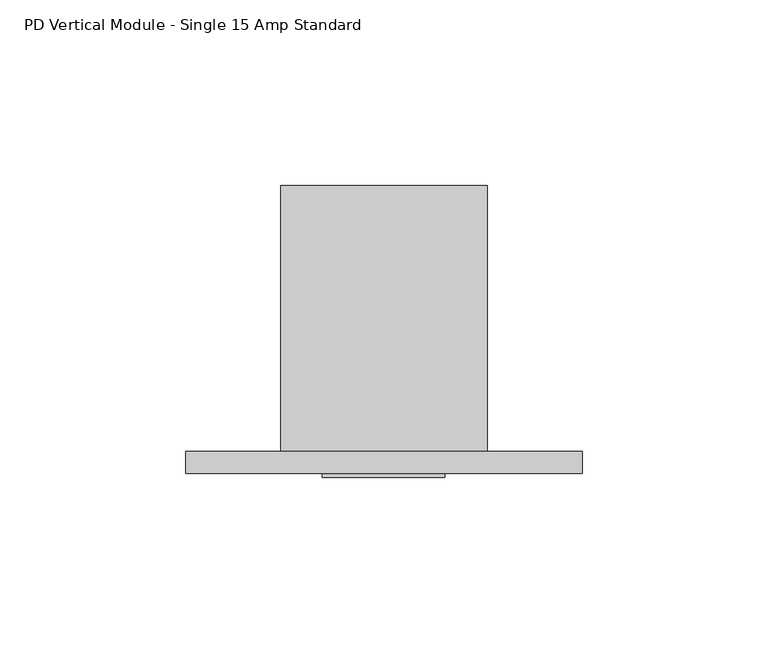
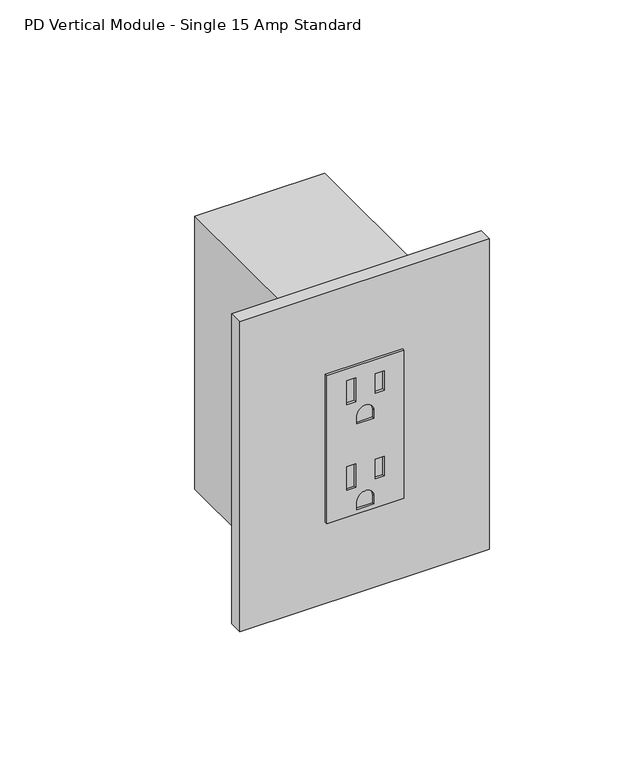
"""IFC4 building model written with IfcOpenShell, lengths in millimetres: proxy geometry, Electrical-Teknion-EPDMSFH_Vertical_Power_Data_Single-R2021 : PD Vertical Module - Single 15 Amp Standard."""

from ifc_helpers import new_model, si_unit, point, frame, frame_2d, origin, place, context, project, spatial, polyline, circle_curve, trimmed, segment, composite_curve, outline, extrude, source, transform, mapped, element, save


def pd_vertical_module_single_15_amp_standard_42925ea9(model_context):
    return source(origin(), model_context, "Body", "SweptSolid", [
        extrude(outline(polyline([(414.4772, 44.0944), (414.4772, 11.0998), (347.5228, 11.0998), (347.5228, 44.0944), (414.4772, 44.0944)]), holes=[polyline([(409.0924, 23.4442), (398.272, 23.4442), (398.272, 19.6088), (409.0924, 19.6088), (409.0924, 23.4442)]), polyline([(408.1145, 35.6108), (399.2499, 35.6108), (399.2499, 31.7754), (408.1145, 31.7754), (408.1145, 35.6108)]), composite_curve([segment(polyline([(388.0866, 31.2293), (388.0866, 23.9649), (391.7188, 23.9649)]), True, "CONTINUOUS"), segment(trimmed(circle_curve(frame_2d((391.7188, 27.5971)), 3.6322), [point((391.7188, 23.9649))], [point((391.7188, 31.2293))], True, "CARTESIAN"), True, "CONTINUOUS"), segment(polyline([(391.7188, 31.2293), (388.0866, 31.2293)]), True, "CONTINUOUS")], self_intersect=False), polyline([(370.3574, 23.4442), (359.537, 23.4442), (359.537, 19.6088), (370.3574, 19.6088), (370.3574, 23.4442)]), polyline([(369.3795, 35.6108), (360.5149, 35.6108), (360.5149, 31.7754), (369.3795, 31.7754), (369.3795, 35.6108)]), composite_curve([segment(polyline([(349.3516, 31.2293), (349.3516, 23.9649), (352.9838, 23.9649)]), True, "CONTINUOUS"), segment(trimmed(circle_curve(frame_2d((352.9838, 27.5971)), 3.6322), [point((352.9838, 23.9649))], [point((352.9838, 31.2293))], True, "CARTESIAN"), True, "CONTINUOUS"), segment(polyline([(352.9838, 31.2293), (349.3516, 31.2293)]), True, "CONTINUOUS")], self_intersect=False)]), frame((0.0, -6.9294746, 0.0), z_axis=(0.0, 1.0, 0.0), x_axis=(0.0, 0.0, 1.0)), (0.0, 0.0, 1.0), 1.0366746),
        extrude(outline(polyline([(-25.6794, 0.0), (81.2292, 0.0), (81.2292, -5.8928), (-25.6794, -5.8928), (-25.6794, 0.0)])), frame((0.0, 0.0, 310.8198), z_axis=(0.0, 0.0, 1.0), x_axis=(1.0, 0.0, 0.0)), (0.0, 0.0, 1.0), 140.3604),
        extrude(outline(polyline([(55.5498, 0.0), (0.0, 0.0), (0.0, 71.7296), (55.5498, 71.7296), (55.5498, 0.0)])), frame((0.0, 0.0, 319.2526), z_axis=(0.0, 0.0, 1.0), x_axis=(1.0, 0.0, 0.0)), (0.0, 0.0, 1.0), 123.4948),
    ])


if __name__ == "__main__":
    model = new_model("IFC4")
    model_context = context("Model", 3, world=origin())
    ifc_project = project(units=[si_unit("LENGTHUNIT", "METRE", prefix="MILLI")], contexts=[model_context])
    site = spatial("IfcSite", under=ifc_project)
    building = spatial("IfcBuilding", under=site)
    placement = place(None, origin())
    pd_vertical_module_single_15_amp_standard_shape = pd_vertical_module_single_15_amp_standard_42925ea9(model_context)
    element("IfcBuildingElementProxy", 1, Name="Electrical-Teknion-EPDMSFH_Vertical_Power_Data_Single-R2021 : PD Vertical Module - Single 15 Amp Standard", ObjectType="Electrical-Teknion-EPDMSFH_Vertical_Power_Data_Single-R2021 : PD Vertical Module - Single 15 Amp Standard", at=placement, inside=building, context=model_context, shape_type="MappedRepresentation", body=[
        mapped(pd_vertical_module_single_15_amp_standard_shape, transform((0.0, 0.0, 0.0), x_axis=(1.0, 0.0, 0.0), y_axis=(0.0, 1.0, 0.0), z_axis=(0.0, 0.0, 1.0))),
    ])
    save(model, "model.ifc")
